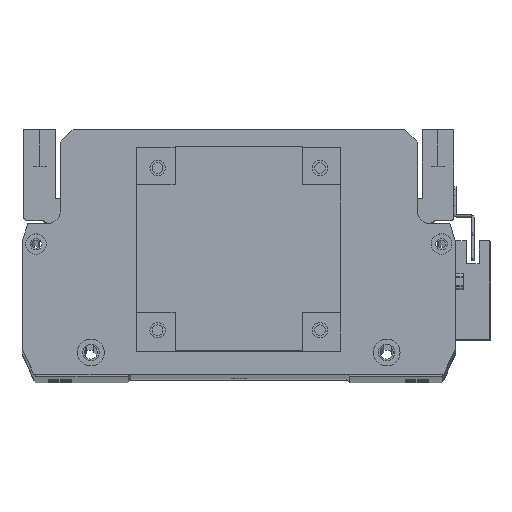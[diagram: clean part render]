
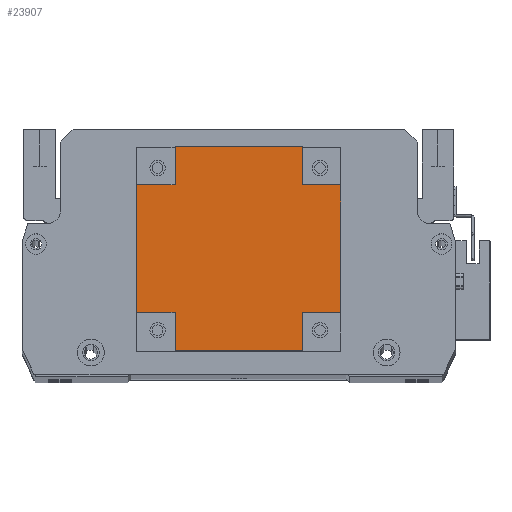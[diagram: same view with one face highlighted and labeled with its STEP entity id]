
A CAD part, top view. The second image highlights one B-rep face of the part: STEP entity #23907.
In plain terms, the highlighted planar face has unit normal (0, 0, 1).
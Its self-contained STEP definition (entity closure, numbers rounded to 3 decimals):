
#36 = VERTEX_POINT ( 'NONE', #18803 ) ;
#536 = VECTOR ( 'NONE', #23028, 1000. ) ;
#894 = CARTESIAN_POINT ( 'NONE',  ( 15., 80., 101.5 ) ) ;
#1202 = CARTESIAN_POINT ( 'NONE',  ( 65., 0., 101.5 ) ) ;
#1237 = LINE ( 'NONE', #18518, #1956 ) ;
#1240 = LINE ( 'NONE', #19738, #23888 ) ;
#1523 = CARTESIAN_POINT ( 'NONE',  ( 15., 65., 101.5 ) ) ;
#1740 = EDGE_CURVE ( 'NONE', #13548, #16269, #3772, .T. ) ;
#1792 = ORIENTED_EDGE ( 'NONE', *, *, #1984, .T. ) ;
#1911 = CARTESIAN_POINT ( 'NONE',  ( 65., 0., 101.5 ) ) ;
#1956 = VECTOR ( 'NONE', #5775, 1000. ) ;
#1984 = EDGE_CURVE ( 'NONE', #36, #17578, #22614, .T. ) ;
#2115 = EDGE_CURVE ( 'NONE', #12202, #6772, #24283, .T. ) ;
#2621 = CARTESIAN_POINT ( 'NONE',  ( 80., 15., 101.5 ) ) ;
#2636 = VECTOR ( 'NONE', #17979, 1000. ) ;
#3626 = DIRECTION ( 'NONE',  ( -1., 0., 0. ) ) ;
#3772 = LINE ( 'NONE', #22372, #25612 ) ;
#4847 = VECTOR ( 'NONE', #26487, 1000. ) ;
#5374 = LINE ( 'NONE', #21376, #25855 ) ;
#5411 = DIRECTION ( 'NONE',  ( 1., 0., 0. ) ) ;
#5516 = LINE ( 'NONE', #24407, #4847 ) ;
#5751 = VECTOR ( 'NONE', #12863, 1000. ) ;
#5775 = DIRECTION ( 'NONE',  ( 0., 1., 0. ) ) ;
#6772 = VERTEX_POINT ( 'NONE', #16992 ) ;
#7511 = CARTESIAN_POINT ( 'NONE',  ( 65., 15., 101.5 ) ) ;
#7537 = CARTESIAN_POINT ( 'NONE',  ( 0., 80., 101.5 ) ) ;
#7754 = VECTOR ( 'NONE', #5411, 1000. ) ;
#8086 = FACE_OUTER_BOUND ( 'NONE', #10523, .T. ) ;
#8415 = LINE ( 'NONE', #26312, #2636 ) ;
#8864 = LINE ( 'NONE', #1911, #18815 ) ;
#9255 = CARTESIAN_POINT ( 'NONE',  ( 0., 65., 101.5 ) ) ;
#9656 = DIRECTION ( 'NONE',  ( -1., 0., 0. ) ) ;
#9779 = DIRECTION ( 'NONE',  ( 0., -1., 0. ) ) ;
#9995 = PLANE ( 'NONE',  #21721 ) ;
#10027 = ORIENTED_EDGE ( 'NONE', *, *, #25597, .F. ) ;
#10523 = EDGE_LOOP ( 'NONE', ( #12313, #15822, #10027, #23383, #16204, #26800, #1792, #20032, #24181, #21571, #21163, #26202 ) ) ;
#10783 = CARTESIAN_POINT ( 'NONE',  ( 0., 0., 101.5 ) ) ;
#11164 = VECTOR ( 'NONE', #9656, 1000. ) ;
#11204 = CARTESIAN_POINT ( 'NONE',  ( 80., 0., 101.5 ) ) ;
#11685 = CARTESIAN_POINT ( 'NONE',  ( 65., 65., 101.5 ) ) ;
#12175 = CARTESIAN_POINT ( 'NONE',  ( 15., 15., 101.5 ) ) ;
#12202 = VERTEX_POINT ( 'NONE', #2621 ) ;
#12313 = ORIENTED_EDGE ( 'NONE', *, *, #13012, .T. ) ;
#12863 = DIRECTION ( 'NONE',  ( 1., 0., 0. ) ) ;
#13012 = EDGE_CURVE ( 'NONE', #17757, #19852, #22370, .T. ) ;
#13016 = EDGE_CURVE ( 'NONE', #22778, #16269, #5516, .T. ) ;
#13249 = EDGE_CURVE ( 'NONE', #25563, #17578, #8864, .T. ) ;
#13280 = DIRECTION ( 'NONE',  ( 1., 0., 0. ) ) ;
#13296 = LINE ( 'NONE', #13820, #7754 ) ;
#13304 = DIRECTION ( 'NONE',  ( 0., 1., 0. ) ) ;
#13548 = VERTEX_POINT ( 'NONE', #9255 ) ;
#13820 = CARTESIAN_POINT ( 'NONE',  ( 0., 65., 101.5 ) ) ;
#14372 = VERTEX_POINT ( 'NONE', #11685 ) ;
#14489 = CARTESIAN_POINT ( 'NONE',  ( 0., 15., 101.5 ) ) ;
#15822 = ORIENTED_EDGE ( 'NONE', *, *, #25677, .F. ) ;
#16204 = ORIENTED_EDGE ( 'NONE', *, *, #13016, .F. ) ;
#16269 = VERTEX_POINT ( 'NONE', #14489 ) ;
#16357 = DIRECTION ( 'NONE',  ( 0., 0., -1. ) ) ;
#16992 = CARTESIAN_POINT ( 'NONE',  ( 80., 65., 101.5 ) ) ;
#17578 = VERTEX_POINT ( 'NONE', #1202 ) ;
#17671 = LINE ( 'NONE', #18866, #536 ) ;
#17757 = VERTEX_POINT ( 'NONE', #21084 ) ;
#17979 = DIRECTION ( 'NONE',  ( 0., -1., 0. ) ) ;
#18518 = CARTESIAN_POINT ( 'NONE',  ( 15., 80., 101.5 ) ) ;
#18803 = CARTESIAN_POINT ( 'NONE',  ( 15., 0., 101.5 ) ) ;
#18815 = VECTOR ( 'NONE', #19013, 1000. ) ;
#18866 = CARTESIAN_POINT ( 'NONE',  ( 80., 15., 101.5 ) ) ;
#19013 = DIRECTION ( 'NONE',  ( 0., -1., 0. ) ) ;
#19738 = CARTESIAN_POINT ( 'NONE',  ( 65., 65., 101.5 ) ) ;
#19852 = VERTEX_POINT ( 'NONE', #894 ) ;
#20032 = ORIENTED_EDGE ( 'NONE', *, *, #13249, .F. ) ;
#21084 = CARTESIAN_POINT ( 'NONE',  ( 65., 80., 101.5 ) ) ;
#21163 = ORIENTED_EDGE ( 'NONE', *, *, #23732, .F. ) ;
#21376 = CARTESIAN_POINT ( 'NONE',  ( 15., 0., 101.5 ) ) ;
#21571 = ORIENTED_EDGE ( 'NONE', *, *, #2115, .T. ) ;
#21721 = AXIS2_PLACEMENT_3D ( 'NONE', #26731, #16357, #3626 ) ;
#22370 = LINE ( 'NONE', #7537, #11164 ) ;
#22372 = CARTESIAN_POINT ( 'NONE',  ( 0., 0., 101.5 ) ) ;
#22614 = LINE ( 'NONE', #10783, #5751 ) ;
#22778 = VERTEX_POINT ( 'NONE', #12175 ) ;
#23028 = DIRECTION ( 'NONE',  ( -1., 0., 0. ) ) ;
#23383 = ORIENTED_EDGE ( 'NONE', *, *, #1740, .T. ) ;
#23444 = DIRECTION ( 'NONE',  ( 0., 1., 0. ) ) ;
#23594 = VECTOR ( 'NONE', #13304, 1000. ) ;
#23617 = EDGE_CURVE ( 'NONE', #36, #22778, #5374, .T. ) ;
#23732 = EDGE_CURVE ( 'NONE', #14372, #6772, #1240, .T. ) ;
#23888 = VECTOR ( 'NONE', #13280, 1000. ) ;
#23907 = ADVANCED_FACE ( 'NONE', ( #8086 ), #9995, .F. ) ;
#24181 = ORIENTED_EDGE ( 'NONE', *, *, #24499, .F. ) ;
#24283 = LINE ( 'NONE', #11204, #23594 ) ;
#24407 = CARTESIAN_POINT ( 'NONE',  ( 0., 15., 101.5 ) ) ;
#24499 = EDGE_CURVE ( 'NONE', #12202, #25563, #17671, .T. ) ;
#24781 = EDGE_CURVE ( 'NONE', #17757, #14372, #8415, .T. ) ;
#25007 = VERTEX_POINT ( 'NONE', #1523 ) ;
#25563 = VERTEX_POINT ( 'NONE', #7511 ) ;
#25597 = EDGE_CURVE ( 'NONE', #13548, #25007, #13296, .T. ) ;
#25612 = VECTOR ( 'NONE', #9779, 1000. ) ;
#25677 = EDGE_CURVE ( 'NONE', #25007, #19852, #1237, .T. ) ;
#25855 = VECTOR ( 'NONE', #23444, 1000. ) ;
#26202 = ORIENTED_EDGE ( 'NONE', *, *, #24781, .F. ) ;
#26312 = CARTESIAN_POINT ( 'NONE',  ( 65., 80., 101.5 ) ) ;
#26487 = DIRECTION ( 'NONE',  ( -1., 0., 0. ) ) ;
#26731 = CARTESIAN_POINT ( 'NONE',  ( 0., 0., 101.5 ) ) ;
#26800 = ORIENTED_EDGE ( 'NONE', *, *, #23617, .F. ) ;
